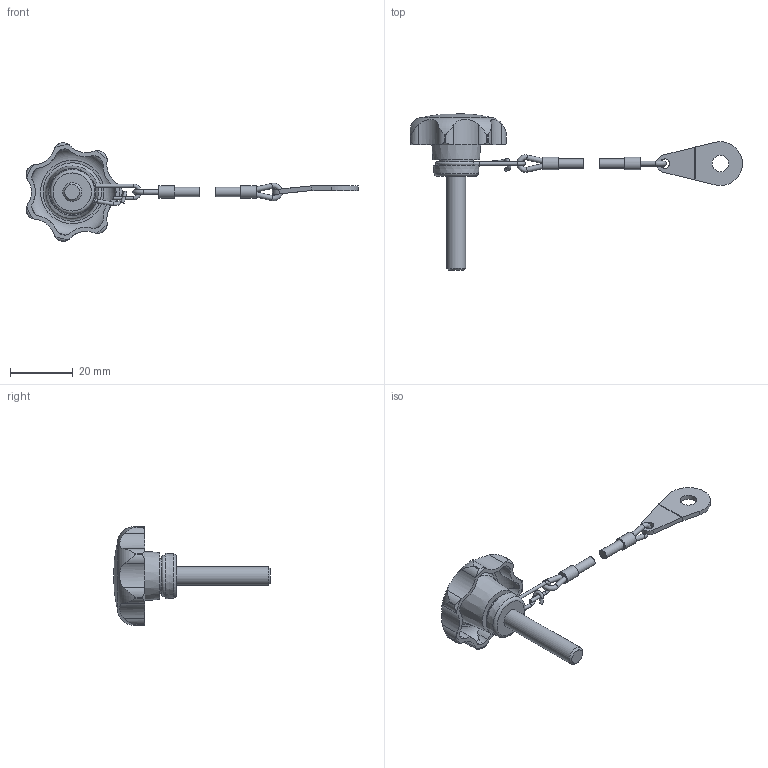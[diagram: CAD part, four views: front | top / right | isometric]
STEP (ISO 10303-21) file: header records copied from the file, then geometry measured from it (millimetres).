
FILE_DESCRIPTION( ( 'STEP AP203' ), '1' );
FILE_NAME( 'C:/Temp/Ganter_Step_05_03_2020/data/2_2/gn_6336_13/gn_6336_13_2/Star knob GN 6336.13-32-M6-30-H.stp', '2020-03-05T12:11:38', ( 'License CC BY-ND 4.0' ), ( 'CADENAS' ), ' ', 'PARTsolutions', ' ' );
FILE_SCHEMA( ( 'CONFIG_CONTROL_DESIGN' ) );
Length unit declared in the file: millimetre
Products named in the file (3): Star knob GN 6336.13-32-M6-30-H; _Star knob GN 6336.13-32-M6-30-H 6; _Star knob GN 111.2-200-14 h2
Assembly tree (2 placements, depth 2):
  Star knob GN 6336.13-32-M6-30-H
    _Star knob GN 6336.13-32-M6-30-H 6
    _Star knob GN 111.2-200-14 h2
Bounding box: 105.8 x 50 x 31.36 mm (x, y, z)
Volume: 7206.4 mm3; surface area: 5193.9 mm2
Topology: 2 solids, 2 shells, 137 faces, 377 edges, 245 vertices
Faces by surface type: cylinder 75, plane 30, torus 20, cone 11, sphere 1
Full cylindrical faces by diameter (mm): 1.1 x4, 1.11 x1, 1.6 x4, 3 x3, 4 x2, 5.3 x1, 6 x1, 10.9 x1
Entity records: 5106 total; most frequent: CARTESIAN_POINT 1802, DIRECTION 652, ORIENTED_EDGE 642, EDGE_CURVE 321, AXIS2_PLACEMENT_3D 281, VERTEX_POINT 231, EDGE_LOOP 187, FACE_OUTER_BOUND 166
